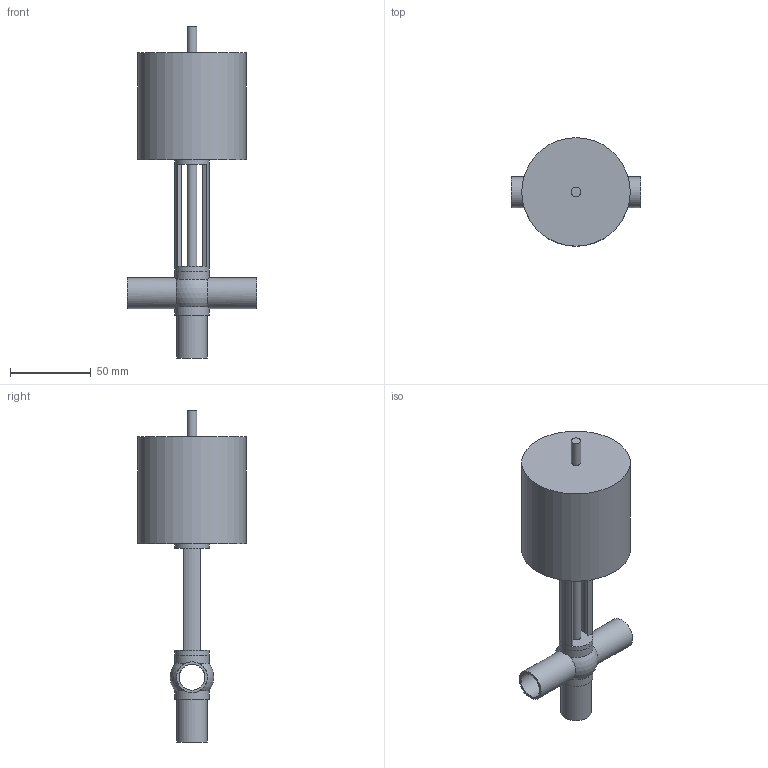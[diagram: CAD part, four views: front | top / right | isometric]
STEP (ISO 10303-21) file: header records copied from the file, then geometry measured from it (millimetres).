
FILE_DESCRIPTION(('FreeCAD Model'),'2;1');
FILE_NAME('/home/martin/Documents/proyect/valves/stp/valve_T_DN-15.step' ,'2018-01-12T21:55:27',('Author'),(''), 'Open CASCADE STEP processor 6.8','FreeCAD','Unknown');
FILE_SCHEMA(('AUTOMOTIVE_DESIGN_CC2 { 1 2 10303 214 -1 1 5 4 }'));
Length unit declared in the file: millimetre
Products named in the file (3): ASSEMBLY; valve_T_DN-15-body; valve_T_DN-15-head
Assembly tree (2 placements, depth 2):
  ASSEMBLY
    valve_T_DN-15-body
    valve_T_DN-15-head
Bounding box: 80 x 67 x 205 mm (x, y, z)
Volume: 251815.7 mm3; surface area: 39506.2 mm2
Topology: 2 solids, 2 shells, 37 faces, 92 edges, 59 vertices
Faces by surface type: cylinder 18, plane 16, sphere 3
Full cylindrical faces by diameter (mm): 6 x2, 16 x3, 19 x3, 21 x4, 67 x1
Entity records: 3378 total; most frequent: CARTESIAN_POINT 1361, DIRECTION 358, ORIENTED_EDGE 182, PCURVE 182, DEFINITIONAL_REPRESENTATION 182, LINE 143, VECTOR 143, AXIS2_PLACEMENT_3D 93
